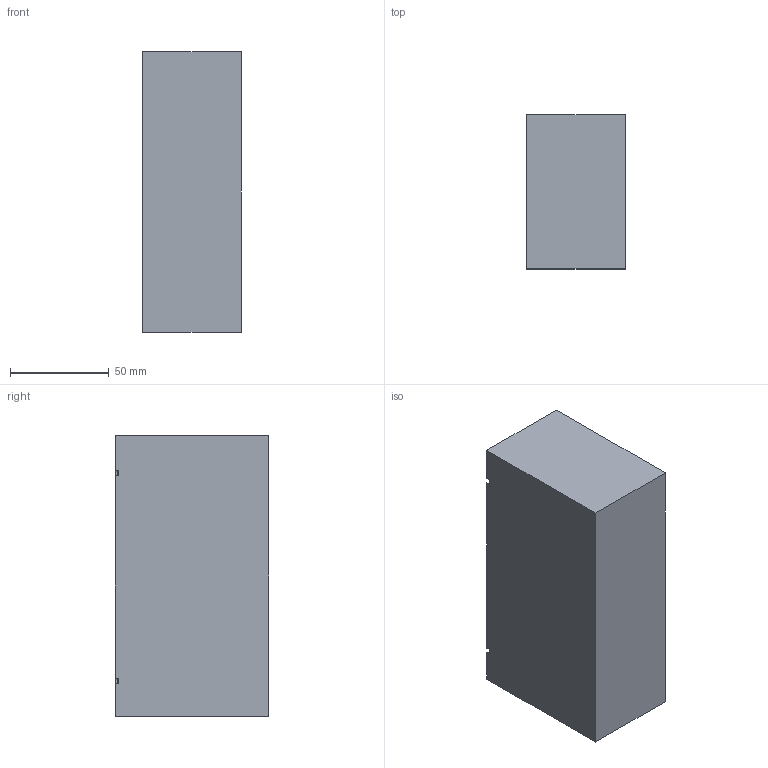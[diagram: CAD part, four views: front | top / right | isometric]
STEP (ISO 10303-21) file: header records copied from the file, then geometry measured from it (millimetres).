
FILE_DESCRIPTION(('Open CASCADE Model'),'2;1');
FILE_NAME('Open CASCADE Shape Model','2026-10-18T22:58:46',('Author'),( 'Open CASCADE'),'Open CASCADE STEP processor 7.9','Open CASCADE 7.9' ,'Unknown');
FILE_SCHEMA(('AUTOMOTIVE_DESIGN { 1 0 10303 214 1 1 1 1 }'));
Length unit declared in the file: millimetre
Products named in the file (1): Open CASCADE STEP translator 7.9 40
Bounding box: 50 x 78 x 142 mm (x, y, z)
Volume: 63620.4 mm3; surface area: 84984.9 mm2
Topology: 1 solids, 1 shells, 20 faces, 60 edges, 40 vertices
Faces by surface type: plane 14, cylinder 6
Full cylindrical faces by diameter (mm): 6.5 x2
Entity records: 1494 total; most frequent: CARTESIAN_POINT 337, DIRECTION 202, LINE 124, VECTOR 124, ORIENTED_EDGE 120, PCURVE 120, DEFINITIONAL_REPRESENTATION 120, EDGE_CURVE 60
